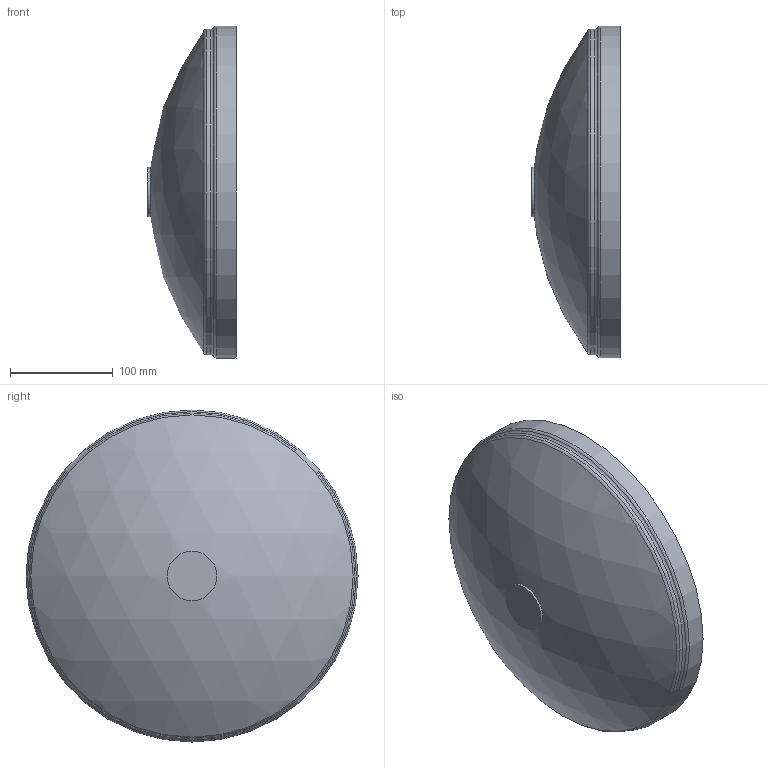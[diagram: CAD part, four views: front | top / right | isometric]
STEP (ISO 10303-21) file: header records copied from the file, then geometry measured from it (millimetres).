
FILE_DESCRIPTION(/* description */ ('VIC STRENGTHIN CAP No E496 w/Tap 1/2 inch BSPT (Concentric)','CAx-IF Rec.Pracs.---Representation and Presentation of Product Manufacturing Information (PMI)---4.0---2014-10-13'),/* implementation_level */ '2;1');
FILE_NAME(/* name */ 'C:\Users\Vjadhav\AppData\Roaming\Autodesk\ApplicationPlugins\Back Up\Victaulic_SS-StrengThin 100_Cap With Tap_No E496 (ST1)\Victaulic_SS-StrengThin 100_Cap With Tap_No E496 (ST1)_12.0x01.5 (300x40).stp',/* time_stamp */ '2020-07-07T18:47:37+05:00',/* author */ ('jheald'),/* organization */ ('Victaulic'),/* preprocessor_version */ 'ST-DEVELOPER v17.2',/* originating_system */ 'Autodesk Inventor 2019',/* authorisation */ '');
FILE_SCHEMA (('AP242_MANAGED_MODEL_BASED_3D_ENGINEERING_MIM_LF { 1 0 10303 442 1 1 4 }'));
Length unit declared in the file: inch
Products named in the file (1): E496-12.0x01.5
Bounding box: 85.85 x 323.85 x 323.85 mm (x, y, z)
Volume: 1027352.5 mm3; surface area: 231599.5 mm2
Topology: 1 solids, 1 shells, 12 faces, 26 edges, 18 vertices
Faces by surface type: cylinder 4, torus 4, plane 2, sphere 2
Full cylindrical faces by diameter (mm): 48.26 x1, 304.8 x1, 317.5 x1, 323.85 x1
Entity records: 492 total; most frequent: DIRECTION 100, CARTESIAN_POINT 74, ORIENTED_EDGE 52, AXIS2_PLACEMENT_3D 48, EDGE_CURVE 26, CIRCLE 22, VERTEX_POINT 18, EDGE_LOOP 14
